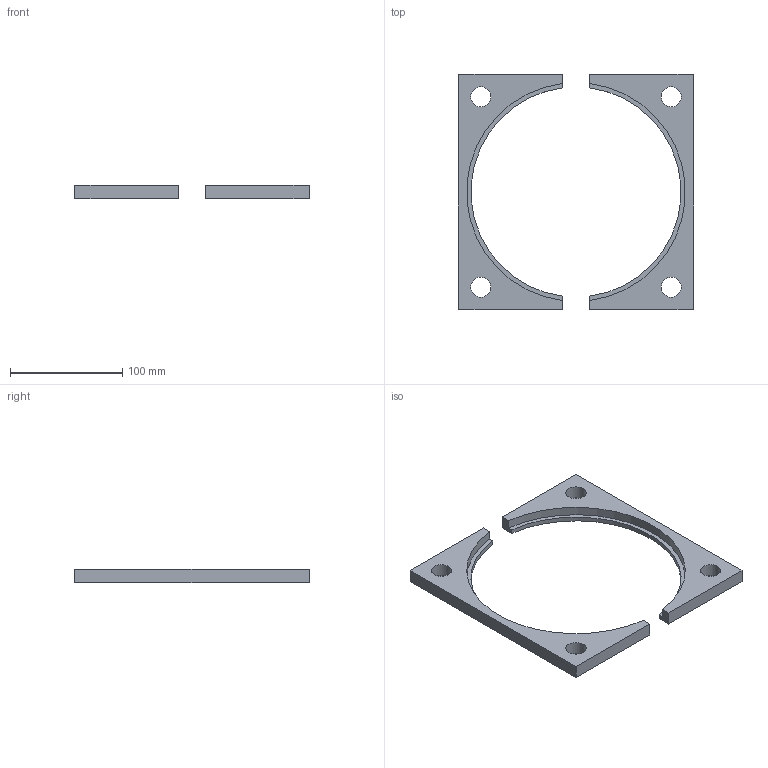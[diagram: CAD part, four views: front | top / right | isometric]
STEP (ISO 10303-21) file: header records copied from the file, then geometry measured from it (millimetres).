
FILE_DESCRIPTION(/* description */ (''),/* implementation_level */ '2;1');
FILE_NAME(/* name */ 'C:\Users\Jefferson\Desktop\Biblioteca Pro Nitro 2024\Flanges\PNB-55-XXX\PNB-55-195.stp',/* time_stamp */ '2024-01-26T15:49:45-03:00',/* author */ ('Jefferson'),/* organization */ (''),/* preprocessor_version */ 'ST-DEVELOPER v18.1',/* originating_system */ 'Autodesk Inventor 2021',/* authorisation */ '');
FILE_SCHEMA (('AUTOMOTIVE_DESIGN { 1 0 10303 214 3 1 1 }'));
Length unit declared in the file: millimetre
Products named in the file (1): PNB-55-195
Bounding box: 210 x 210 x 12 mm (x, y, z)
Volume: 161970.3 mm3; surface area: 49200.7 mm2
Topology: 2 solids, 2 shells, 192 faces, 522 edges, 348 vertices
Faces by surface type: plane 103, bspline 81, cylinder 8
Full cylindrical faces by diameter (mm): 18 x4
Entity records: 6484 total; most frequent: CARTESIAN_POINT 2116, ORIENTED_EDGE 1044, DIRECTION 600, EDGE_CURVE 522, VERTEX_POINT 348, LINE 344, VECTOR 344, EDGE_LOOP 214
